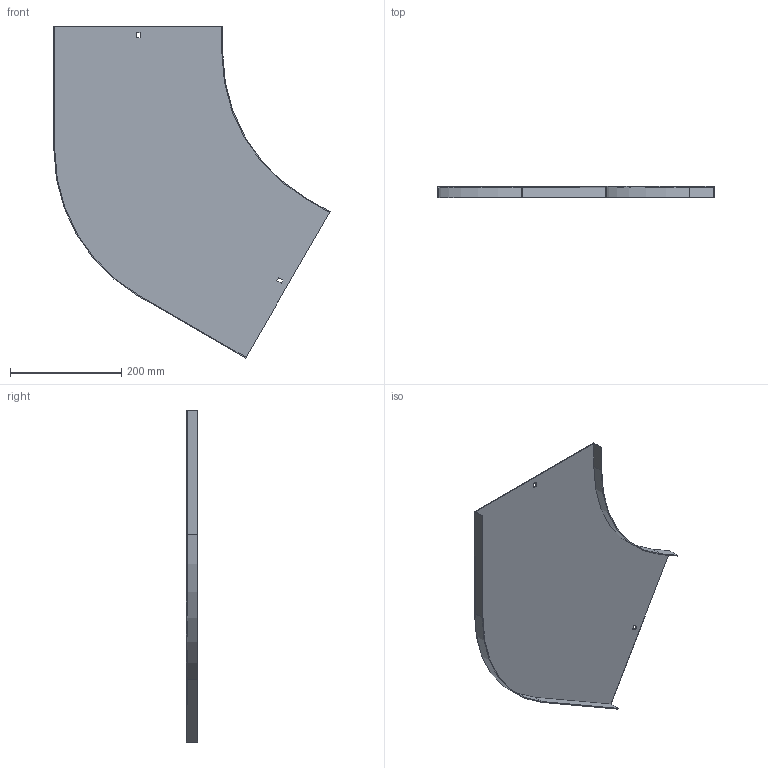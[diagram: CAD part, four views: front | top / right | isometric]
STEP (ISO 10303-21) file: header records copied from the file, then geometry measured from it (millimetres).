
FILE_DESCRIPTION (( 'STEP AP214' ), '1' );
FILE_NAME ('B2_13N3R300.step', '2025-02-21T10:52:42', ( '' ), ( '' ), 'SwSTEP 2.0', 'SolidWorks 2023', '' );
FILE_SCHEMA (( 'AUTOMOTIVE_DESIGN' ));
Length unit declared in the file: millimetre
Products named in the file (1): B2_13N3R300
Bounding box: 495.55 x 20 x 595.91 mm (x, y, z)
Volume: 313893.2 mm3; surface area: 421399.4 mm2
Topology: 1 solids, 1 shells, 26 faces, 72 edges, 48 vertices
Faces by surface type: plane 22, cylinder 4
Entity records: 855 total; most frequent: CARTESIAN_POINT 147, ORIENTED_EDGE 144, DIRECTION 134, EDGE_CURVE 72, VECTOR 64, LINE 64, VERTEX_POINT 48, AXIS2_PLACEMENT_3D 35
